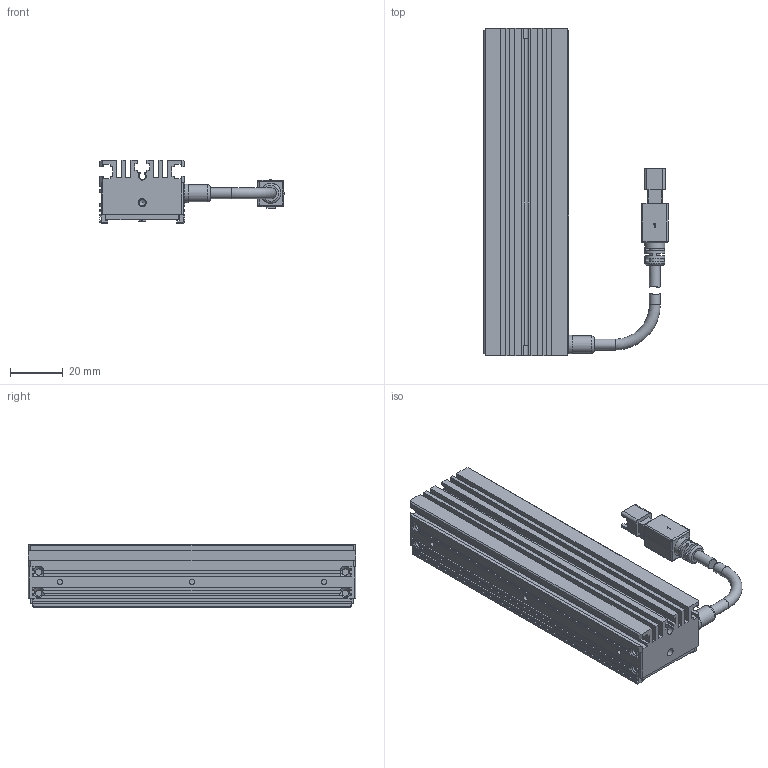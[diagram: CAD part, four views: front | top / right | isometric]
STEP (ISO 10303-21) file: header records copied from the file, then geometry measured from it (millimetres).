
FILE_DESCRIPTION (( 'STEP AP203' ), '1' );
FILE_NAME ('OPT-ULI12432-UV-V1.0U 尨砩芞.STEP', '2024-12-11T03:25:09', ( '' ), ( '' ), 'SwSTEP 2.0', 'SolidWorks 2016', '' );
FILE_SCHEMA (( 'CONFIG_CONTROL_DESIGN' ));
Length unit declared in the file: millimetre
Products named in the file (1): OPT-ULI12432-UV-V1.0U 尨砩芞
Bounding box: 69.6 x 124 x 24 mm (x, y, z)
Volume: 76514.2 mm3; surface area: 34663.6 mm2
Topology: 6 solids, 16 shells, 647 faces, 1667 edges, 1072 vertices
Faces by surface type: plane 445, cylinder 143, cone 30, bspline 21, torus 8
Full cylindrical faces by diameter (mm): 1.1 x2, 1.4 x4, 1.6 x9, 2 x13, 2.4 x7, 2.5 x2, 2.6 x2, 3 x2, 3.5 x1, 4.1 x4, 6.5 x1, 7 x1, 7.5 x1
Entity records: 19619 total; most frequent: CARTESIAN_POINT 4455, ORIENTED_EDGE 3096, DIRECTION 3007, EDGE_CURVE 1548, LINE 1087, VECTOR 1087, VERTEX_POINT 1036, AXIS2_PLACEMENT_3D 960
